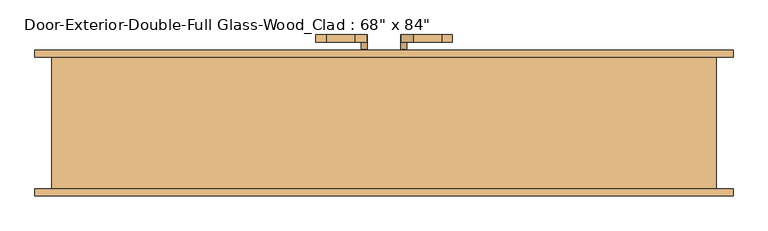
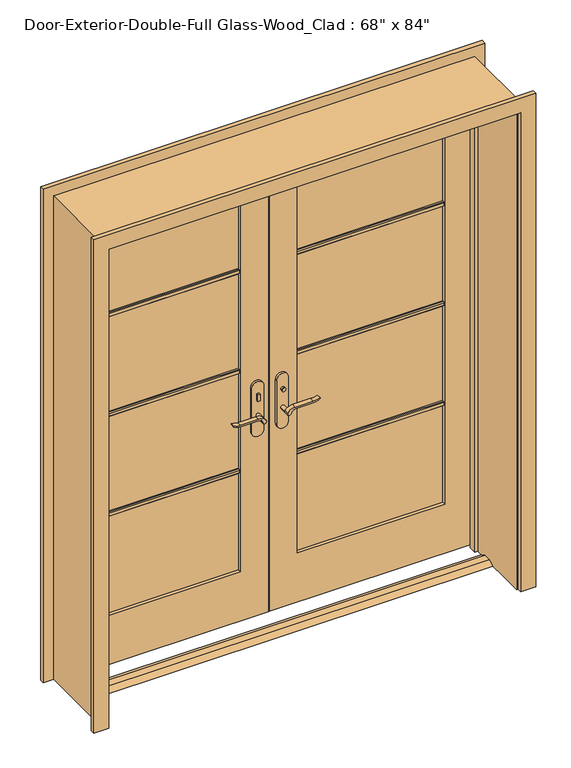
"""IFC4 building model written with IfcOpenShell, lengths in millimetres: door geometry."""

from ifc_helpers import new_model, si_unit, point, frame, frame_2d, origin, place, context, project, spatial, polyline, circle_curve, trimmed, segment, composite_curve, outline, extrude, faceted_brep, source, transform, mapped, element, save


def door_f2de18c9(model_context):
    return source(origin(), model_context, "Body", "SolidModel", [
        extrude(outline(polyline([(19.05, 12.7), (53.975, 12.7), (79.375, 0.0), (-6.35, 0.0), (19.05, 12.7)])), frame((-863.6, 0.0, 0.0), z_axis=(1.0, 0.0, 0.0), x_axis=(0.0, 1.0, 0.0)), (0.0, 0.0, 1.0), 1727.2),
        extrude(outline(polyline([(-47.4019111, 118.1125), (-57.4019111, 118.1125), (-57.4019111, 128.1125), (-47.4019111, 128.1125), (-47.4019111, 118.1125)])), frame((0.0, 0.0, 981.9), z_axis=(0.0, 0.0, 1.0), x_axis=(1.0, 0.0, 0.0)), (0.0, 0.0, 1.0), 30.0),
        extrude(outline(composite_curve([segment(trimmed(circle_curve(frame_2d((996.9, -52.4019111)), 8.0), [point((996.9, -60.4019111))], [point((996.9, -44.4019111))], False, "CARTESIAN"), True, "CONTINUOUS"), segment(trimmed(circle_curve(frame_2d((996.9, -52.4019111)), 8.0), [point((996.9, -44.4019111))], [point((996.9, -60.4019111))], False, "CARTESIAN"), True, "CONTINUOUS")], self_intersect=False)), frame((0.0, 183.0375, 0.0), z_axis=(0.0, 1.0, 0.0), x_axis=(0.0, 0.0, 1.0)), (0.0, 0.0, 1.0), 10.0),
        extrude(outline(composite_curve([segment(trimmed(circle_curve(frame_2d((897.1555521, -76.0694241)), 37.2832219), [point((919.0523287, -45.8937749))], [point((934.4, -77.7693445))], False, "CARTESIAN"), True, "CONTINUOUS"), segment(polyline([(934.4, -77.7693445), (934.4, -154.045502)]), True, "CONTINUOUS"), segment(trimmed(circle_curve(frame_2d((1017.6850638, -153.9791202)), 83.2850902), [point((934.4, -154.045502))], [point((939.4, -182.4019111))], True, "CARTESIAN"), True, "CONTINUOUS"), segment(polyline([(939.4, -182.4019111), (936.6135558, -182.4019111)]), True, "CONTINUOUS"), segment(trimmed(circle_curve(frame_2d((986.6709207, -150.4622499)), 59.3791355), [point((936.6135558, -182.4019111))], [point((927.4, -154.045502))], False, "CARTESIAN"), True, "CONTINUOUS"), segment(polyline([(927.4, -154.045502), (927.4, -77.7881013)]), True, "CONTINUOUS"), segment(trimmed(circle_curve(frame_2d((909.2738613, -77.7881013)), 18.1261387), [point((927.4, -77.7881013))], [point((914.4, -60.4019111))], True, "CARTESIAN"), True, "CONTINUOUS"), segment(trimmed(circle_curve(frame_2d((914.4, -52.4019111)), 8.0), [point((914.4, -60.4019111))], [point((919.0523287, -45.8937749))], False, "CARTESIAN"), True, "CONTINUOUS")], self_intersect=False)), frame((0.0, 78.1125, 0.0), z_axis=(0.0, 1.0, 0.0), x_axis=(0.0, 0.0, 1.0)), (0.0, 0.0, 1.0), 20.0),
        extrude(outline(composite_curve([segment(trimmed(circle_curve(frame_2d((914.4, -52.4019111)), 8.0), [point((914.3999903, -60.4019111))], [point((919.0523287, -45.8937749))], False, "CARTESIAN"), True, "CONTINUOUS"), segment(trimmed(circle_curve(frame_2d((897.1555521, -76.0694241)), 37.2832219), [point((919.0523287, -45.8937749))], [point((934.4, -77.7693445))], False, "CARTESIAN"), True, "CONTINUOUS"), segment(polyline([(934.4, -77.7693445), (934.4, -154.045502)]), True, "CONTINUOUS"), segment(trimmed(circle_curve(frame_2d((1017.6850638, -153.9791202)), 83.2850902), [point((934.4, -154.045502))], [point((939.4, -182.4019111))], True, "CARTESIAN"), True, "CONTINUOUS"), segment(polyline([(939.4, -182.4019111), (936.6135558, -182.4019111)]), True, "CONTINUOUS"), segment(trimmed(circle_curve(frame_2d((986.6709207, -150.4622499)), 59.3791355), [point((936.6135558, -182.4019111))], [point((927.4, -154.045502))], False, "CARTESIAN"), True, "CONTINUOUS"), segment(polyline([(927.4, -154.045502), (927.4, -77.788099)]), True, "CONTINUOUS"), segment(trimmed(circle_curve(frame_2d((909.2738682, -77.788099)), 18.1261318), [point((927.4, -77.788099))], [point((914.3999903, -60.4019111))], True, "CARTESIAN"), True, "CONTINUOUS")], self_intersect=False)), frame((0.0, 213.0375, 0.0), z_axis=(0.0, 1.0, 0.0), x_axis=(0.0, 0.0, 1.0)), (0.0, 0.0, 1.0), 20.0),
        extrude(outline(composite_curve([segment(trimmed(circle_curve(frame_2d((914.4, -52.4019111)), 8.0), [point((914.4, -60.4019111))], [point((914.4, -44.4019111))], False, "CARTESIAN"), True, "CONTINUOUS"), segment(trimmed(circle_curve(frame_2d((914.4, -52.4019111)), 8.0), [point((914.4, -44.4019111))], [point((914.4, -60.4019111))], False, "CARTESIAN"), True, "CONTINUOUS")], self_intersect=False)), frame((0.0, 98.1125, 0.0), z_axis=(0.0, 1.0, 0.0), x_axis=(0.0, 0.0, 1.0)), (0.0, 0.0, 1.0), 30.0),
        extrude(outline(composite_curve([segment(trimmed(circle_curve(frame_2d((914.4, -52.4019111)), 8.0), [point((914.4, -60.4019111))], [point((914.4, -44.4019111))], False, "CARTESIAN"), True, "CONTINUOUS"), segment(trimmed(circle_curve(frame_2d((914.4, -52.4019111)), 8.0), [point((914.4, -44.4019111))], [point((914.4, -60.4019111))], False, "CARTESIAN"), True, "CONTINUOUS")], self_intersect=False)), frame((0.0, 183.0375, 0.0), z_axis=(0.0, 1.0, 0.0), x_axis=(0.0, 0.0, 1.0)), (0.0, 0.0, 1.0), 30.0),
        extrude(outline(composite_curve([segment(polyline([(844.4, -27.4019111), (1039.4, -27.4019111)]), True, "CONTINUOUS"), segment(trimmed(circle_curve(frame_2d((1039.4, -52.4019111)), 25.0), [point((1039.4, -27.4019111))], [point((1039.4, -77.4019111))], False, "CARTESIAN"), True, "CONTINUOUS"), segment(polyline([(1039.4, -77.4019111), (844.4, -77.4019111)]), True, "CONTINUOUS"), segment(trimmed(circle_curve(frame_2d((844.4, -52.4019111)), 25.0), [point((844.4, -77.4019111))], [point((844.4, -27.4019111))], False, "CARTESIAN"), True, "CONTINUOUS")], self_intersect=False)), frame((0.0, 128.1125, 0.0), z_axis=(0.0, 1.0, 0.0), x_axis=(0.0, 0.0, 1.0)), (0.0, 0.0, 1.0), 10.0),
        extrude(outline(composite_curve([segment(polyline([(844.4, -27.4019111), (1039.4, -27.4019111)]), True, "CONTINUOUS"), segment(trimmed(circle_curve(frame_2d((1039.4, -52.4019111)), 25.0), [point((1039.4, -27.4019111))], [point((1039.4, -77.4019111))], False, "CARTESIAN"), True, "CONTINUOUS"), segment(polyline([(1039.4, -77.4019111), (844.4, -77.4019111)]), True, "CONTINUOUS"), segment(trimmed(circle_curve(frame_2d((844.4, -52.4019111)), 25.0), [point((844.4, -77.4019111))], [point((844.4, -27.4019111))], False, "CARTESIAN"), True, "CONTINUOUS")], self_intersect=False)), frame((0.0, 173.0375, 0.0), z_axis=(0.0, 1.0, 0.0), x_axis=(0.0, 0.0, 1.0)), (0.0, 0.0, 1.0), 10.0),
        extrude(outline(polyline([(47.3875, 193.0375), (57.3875, 193.0375), (57.3875, 183.0375), (47.3875, 183.0375), (47.3875, 193.0375)])), frame((0.0, 0.0, 981.9), z_axis=(0.0, 0.0, 1.0), x_axis=(1.0, 0.0, 0.0)), (0.0, 0.0, 1.0), 30.0),
        extrude(outline(composite_curve([segment(trimmed(circle_curve(frame_2d((996.9, 52.3875)), 8.0), [point((996.9, 60.3875))], [point((996.9, 44.3875))], False, "CARTESIAN"), True, "CONTINUOUS"), segment(trimmed(circle_curve(frame_2d((996.9, 52.3875)), 8.0), [point((996.9, 44.3875))], [point((996.9, 60.3875))], False, "CARTESIAN"), True, "CONTINUOUS")], self_intersect=False)), frame((0.0, 118.1125, 0.0), z_axis=(0.0, 1.0, 0.0), x_axis=(0.0, 0.0, 1.0)), (0.0, 0.0, 1.0), 10.0),
        extrude(outline(composite_curve([segment(trimmed(circle_curve(frame_2d((914.4, 52.3875)), 8.0), [point((919.0523287, 45.8793637))], [point((914.4, 60.3875))], False, "CARTESIAN"), True, "CONTINUOUS"), segment(trimmed(circle_curve(frame_2d((909.2738613, 77.7736901)), 18.1261387), [point((914.4, 60.3875))], [point((927.4, 77.7736901))], True, "CARTESIAN"), True, "CONTINUOUS"), segment(polyline([(927.4, 77.7736901), (927.4, 154.0310909)]), True, "CONTINUOUS"), segment(trimmed(circle_curve(frame_2d((986.6709207, 150.4478388)), 59.3791355), [point((927.4, 154.0310909))], [point((936.6135558, 182.3875))], False, "CARTESIAN"), True, "CONTINUOUS"), segment(polyline([(936.6135558, 182.3875), (939.4, 182.3875)]), True, "CONTINUOUS"), segment(trimmed(circle_curve(frame_2d((1017.6850638, 153.9647091)), 83.2850902), [point((939.4, 182.3875))], [point((934.4, 154.0310909))], True, "CARTESIAN"), True, "CONTINUOUS"), segment(polyline([(934.4, 154.0310909), (934.4, 77.7549333)]), True, "CONTINUOUS"), segment(trimmed(circle_curve(frame_2d((897.1555521, 76.0550129)), 37.2832219), [point((934.4, 77.7549333))], [point((919.0523287, 45.8793637))], False, "CARTESIAN"), True, "CONTINUOUS")], self_intersect=False)), frame((0.0, 213.0375, 0.0), z_axis=(0.0, 1.0, 0.0), x_axis=(0.0, 0.0, 1.0)), (0.0, 0.0, 1.0), 20.0),
        extrude(outline(composite_curve([segment(trimmed(circle_curve(frame_2d((909.2738682, 77.7736878)), 18.1261318), [point((914.3999903, 60.3875))], [point((927.4, 77.7736878))], True, "CARTESIAN"), True, "CONTINUOUS"), segment(polyline([(927.4, 77.7736878), (927.4, 154.0310909)]), True, "CONTINUOUS"), segment(trimmed(circle_curve(frame_2d((986.6709207, 150.4478388)), 59.3791355), [point((927.4, 154.0310909))], [point((936.6135558, 182.3875))], False, "CARTESIAN"), True, "CONTINUOUS"), segment(polyline([(936.6135558, 182.3875), (939.4, 182.3875)]), True, "CONTINUOUS"), segment(trimmed(circle_curve(frame_2d((1017.6850638, 153.9647091)), 83.2850902), [point((939.4, 182.3875))], [point((934.4, 154.0310909))], True, "CARTESIAN"), True, "CONTINUOUS"), segment(polyline([(934.4, 154.0310909), (934.4, 77.7549333)]), True, "CONTINUOUS"), segment(trimmed(circle_curve(frame_2d((897.1555521, 76.0550129)), 37.2832219), [point((934.4, 77.7549333))], [point((919.0523287, 45.8793637))], False, "CARTESIAN"), True, "CONTINUOUS"), segment(trimmed(circle_curve(frame_2d((914.4, 52.3875)), 8.0), [point((919.0523287, 45.8793637))], [point((914.3999903, 60.3875))], False, "CARTESIAN"), True, "CONTINUOUS")], self_intersect=False)), frame((0.0, 78.1125, 0.0), z_axis=(0.0, 1.0, 0.0), x_axis=(0.0, 0.0, 1.0)), (0.0, 0.0, 1.0), 20.0),
        extrude(outline(composite_curve([segment(trimmed(circle_curve(frame_2d((914.4, 52.3875)), 8.0), [point((914.4, 60.3875))], [point((914.4, 44.3875))], False, "CARTESIAN"), True, "CONTINUOUS"), segment(trimmed(circle_curve(frame_2d((914.4, 52.3875)), 8.0), [point((914.4, 44.3875))], [point((914.4, 60.3875))], False, "CARTESIAN"), True, "CONTINUOUS")], self_intersect=False)), frame((0.0, 183.0375, 0.0), z_axis=(0.0, 1.0, 0.0), x_axis=(0.0, 0.0, 1.0)), (0.0, 0.0, 1.0), 30.0),
        extrude(outline(composite_curve([segment(trimmed(circle_curve(frame_2d((914.4, 52.3875)), 8.0), [point((914.4, 60.3875))], [point((914.4, 44.3875))], False, "CARTESIAN"), True, "CONTINUOUS"), segment(trimmed(circle_curve(frame_2d((914.4, 52.3875)), 8.0), [point((914.4, 44.3875))], [point((914.4, 60.3875))], False, "CARTESIAN"), True, "CONTINUOUS")], self_intersect=False)), frame((0.0, 98.1125, 0.0), z_axis=(0.0, 1.0, 0.0), x_axis=(0.0, 0.0, 1.0)), (0.0, 0.0, 1.0), 30.0),
        extrude(outline(composite_curve([segment(trimmed(circle_curve(frame_2d((844.4, 52.3875)), 25.0), [point((844.4, 27.3875))], [point((844.4, 77.3875))], False, "CARTESIAN"), True, "CONTINUOUS"), segment(polyline([(844.4, 77.3875), (1039.4, 77.3875)]), True, "CONTINUOUS"), segment(trimmed(circle_curve(frame_2d((1039.4, 52.3875)), 25.0), [point((1039.4, 77.3875))], [point((1039.4, 27.3875))], False, "CARTESIAN"), True, "CONTINUOUS"), segment(polyline([(1039.4, 27.3875), (844.4, 27.3875)]), True, "CONTINUOUS")], self_intersect=False)), frame((0.0, 173.0375, 0.0), z_axis=(0.0, 1.0, 0.0), x_axis=(0.0, 0.0, 1.0)), (0.0, 0.0, 1.0), 10.0),
        extrude(outline(composite_curve([segment(trimmed(circle_curve(frame_2d((844.4, 52.3875)), 25.0), [point((844.4, 27.3875))], [point((844.4, 77.3875))], False, "CARTESIAN"), True, "CONTINUOUS"), segment(polyline([(844.4, 77.3875), (1039.4, 77.3875)]), True, "CONTINUOUS"), segment(trimmed(circle_curve(frame_2d((1039.4, 52.3875)), 25.0), [point((1039.4, 77.3875))], [point((1039.4, 27.3875))], False, "CARTESIAN"), True, "CONTINUOUS"), segment(polyline([(1039.4, 27.3875), (844.4, 27.3875)]), True, "CONTINUOUS")], self_intersect=False)), frame((0.0, 128.1125, 0.0), z_axis=(0.0, 1.0, 0.0), x_axis=(0.0, 0.0, 1.0)), (0.0, 0.0, 1.0), 10.0),
        extrude(outline(polyline([(152.0825, 1578.371875), (152.0825, 1559.321875), (145.7325, 1559.321875), (142.5575, 1562.496875), (142.5575, 1575.196875), (145.7325, 1578.371875), (152.0825, 1578.371875)])), frame((120.65, 0.0, 0.0), z_axis=(1.0, 0.0, 0.0), x_axis=(0.0, 1.0, 0.0)), (0.0, 0.0, 1.0), 622.3),
        extrude(outline(polyline([(152.0825, 1132.68125), (152.0825, 1113.63125), (145.7325, 1113.63125), (142.5575, 1116.80625), (142.5575, 1129.50625), (145.7325, 1132.68125), (152.0825, 1132.68125)])), frame((120.65, 0.0, 0.0), z_axis=(1.0, 0.0, 0.0), x_axis=(0.0, 1.0, 0.0)), (0.0, 0.0, 1.0), 622.3),
        extrude(outline(polyline([(152.0825, 686.990625), (152.0825, 667.940625), (145.7325, 667.940625), (142.5575, 671.115625), (142.5575, 683.815625), (145.7325, 686.990625), (152.0825, 686.990625)])), frame((120.65, 0.0, 0.0), z_axis=(1.0, 0.0, 0.0), x_axis=(0.0, 1.0, 0.0)), (0.0, 0.0, 1.0), 622.3),
        extrude(outline(polyline([(159.0675, 1578.371875), (165.4175, 1578.371875), (168.5925, 1575.196875), (168.5925, 1562.496875), (165.4175, 1559.321875), (159.0675, 1559.321875), (159.0675, 1578.371875)])), frame((-742.95, 0.0, 0.0), z_axis=(1.0, 0.0, 0.0), x_axis=(0.0, 1.0, 0.0)), (0.0, 0.0, 1.0), 622.3),
        extrude(outline(polyline([(159.0675, 1132.68125), (165.4175, 1132.68125), (168.5925, 1129.50625), (168.5925, 1116.80625), (165.4175, 1113.63125), (159.0675, 1113.63125), (159.0675, 1132.68125)])), frame((-742.95, 0.0, 0.0), z_axis=(1.0, 0.0, 0.0), x_axis=(0.0, 1.0, 0.0)), (0.0, 0.0, 1.0), 622.3),
        extrude(outline(polyline([(159.0675, 686.990625), (165.4175, 686.990625), (168.5925, 683.815625), (168.5925, 671.115625), (165.4175, 667.940625), (159.0675, 667.940625), (159.0675, 686.990625)])), frame((-742.95, 0.0, 0.0), z_axis=(1.0, 0.0, 0.0), x_axis=(0.0, 1.0, 0.0)), (0.0, 0.0, 1.0), 622.3),
        extrude(outline(polyline([(159.0675, 1578.371875), (165.4175, 1578.371875), (168.5925, 1575.196875), (168.5925, 1562.496875), (165.4175, 1559.321875), (159.0675, 1559.321875), (159.0675, 1578.371875)])), frame((120.65, 0.0, 0.0), z_axis=(1.0, 0.0, 0.0), x_axis=(0.0, 1.0, 0.0)), (0.0, 0.0, 1.0), 622.3),
        extrude(outline(polyline([(159.0675, 1132.68125), (165.4175, 1132.68125), (168.5925, 1129.50625), (168.5925, 1116.80625), (165.4175, 1113.63125), (159.0675, 1113.63125), (159.0675, 1132.68125)])), frame((120.65, 0.0, 0.0), z_axis=(1.0, 0.0, 0.0), x_axis=(0.0, 1.0, 0.0)), (0.0, 0.0, 1.0), 622.3),
        extrude(outline(polyline([(159.0675, 686.990625), (165.4175, 686.990625), (168.5925, 683.815625), (168.5925, 671.115625), (165.4175, 667.940625), (159.0675, 667.940625), (159.0675, 686.990625)])), frame((120.65, 0.0, 0.0), z_axis=(1.0, 0.0, 0.0), x_axis=(0.0, 1.0, 0.0)), (0.0, 0.0, 1.0), 622.3),
        extrude(outline(polyline([(152.0825, 1578.371875), (152.0825, 1559.321875), (145.7325, 1559.321875), (142.5575, 1562.496875), (142.5575, 1575.196875), (145.7325, 1578.371875), (152.0825, 1578.371875)])), frame((-742.95, 0.0, 0.0), z_axis=(1.0, 0.0, 0.0), x_axis=(0.0, 1.0, 0.0)), (0.0, 0.0, 1.0), 622.3),
        extrude(outline(polyline([(152.0825, 1132.68125), (152.0825, 1113.63125), (145.7325, 1113.63125), (142.5575, 1116.80625), (142.5575, 1129.50625), (145.7325, 1132.68125), (152.0825, 1132.68125)])), frame((-742.95, 0.0, 0.0), z_axis=(1.0, 0.0, 0.0), x_axis=(0.0, 1.0, 0.0)), (0.0, 0.0, 1.0), 622.3),
        extrude(outline(polyline([(152.0825, 686.990625), (152.0825, 667.940625), (145.7325, 667.940625), (142.5575, 671.115625), (142.5575, 683.815625), (145.7325, 686.990625), (152.0825, 686.990625)])), frame((-742.95, 0.0, 0.0), z_axis=(1.0, 0.0, 0.0), x_axis=(0.0, 1.0, 0.0)), (0.0, 0.0, 1.0), 622.3),
        extrude(outline(polyline([(0.0, 869.95), (0.0, 933.45), (2203.45, 933.45), (2203.45, -933.45), (0.0, -933.45), (0.0, -869.95), (2139.95, -869.95), (2139.95, 869.95), (0.0, 869.95)])), frame((0.0, 173.0375, 0.0), z_axis=(0.0, 1.0, 0.0), x_axis=(0.0, 0.0, 1.0)), (0.0, 0.0, 1.0), 19.05),
        extrude(outline(polyline([(0.0, 869.95), (0.0, 933.45), (2203.45, 933.45), (2203.45, -933.45), (0.0, -933.45), (0.0, -869.95), (2139.95, -869.95), (2139.95, 869.95), (0.0, 869.95)])), frame((0.0, -198.4375, 0.0), z_axis=(0.0, 1.0, 0.0), x_axis=(0.0, 0.0, 1.0)), (0.0, 0.0, 1.0), 19.05),
        extrude(outline(polyline([(12.7, 863.6), (2133.6, 863.6), (2133.6, 1.5875), (12.7, 1.5875), (12.7, 863.6)]), holes=[polyline([(2014.5375, 120.65), (2014.5375, 742.95), (231.775, 742.95), (231.775, 120.65), (2014.5375, 120.65)])]), frame((0.0, 138.1125, 0.0), z_axis=(0.0, 1.0, 0.0), x_axis=(0.0, 0.0, 1.0)), (0.0, 0.0, 1.0), 34.925),
        extrude(outline(polyline([(2133.6, -863.6), (12.7, -863.6), (12.7, -1.6019111), (2133.6, -1.6019111), (2133.6, -863.6)]), holes=[polyline([(231.775, -742.95), (2014.5375, -742.95), (2014.5375, -120.65), (231.775, -120.65), (231.775, -742.95)])]), frame((0.0, 138.1125, 0.0), z_axis=(0.0, 1.0, 0.0), x_axis=(0.0, 0.0, 1.0)), (0.0, 0.0, 1.0), 34.925),
        faceted_brep([(889.0, 173.0375, 0.0), (889.0, -179.3875, 0.0), (863.6, -179.3875, 0.0), (863.6, 103.1875, 0.0), (850.9, 103.1875, 0.0), (850.9, 138.1125, 0.0), (863.6, 138.1125, 0.0), (863.6, 173.0375, 0.0), (889.0, 173.0375, 2159.0), (889.0, -179.3875, 2159.0), (-889.0, -179.3875, 2159.0), (-889.0, -179.3875, 0.0), (-863.6, -179.3875, 0.0), (-863.6, -179.3875, 2133.6), (863.6, -179.3875, 2133.6), (863.6, 103.1875, 2133.6), (-863.6, 103.1875, 2133.6), (-863.6, 103.1875, 0.0), (-850.9, 103.1875, 0.0), (-850.9, 103.1875, 2120.9), (850.9, 103.1875, 2120.9), (850.9, 138.1125, 2120.9), (1.5875, 138.1125, 2120.9), (-1.6019111, 138.1125, 2120.9), (-850.9, 138.1125, 2120.9), (-850.9, 138.1125, 0.0), (-863.6, 138.1125, 0.0), (-863.6, 138.1125, 2133.6), (-1.6019111, 138.1125, 2133.6), (1.5875, 138.1125, 2133.6), (863.6, 138.1125, 2133.6), (863.6, 173.0375, 2133.6), (1.5875, 173.0375, 2133.6), (-1.6019111, 173.0375, 2133.6), (-863.6, 173.0375, 2133.6), (-863.6, 173.0375, 0.0), (-889.0, 173.0375, 0.0), (-889.0, 173.0375, 2159.0)], [[[0, 1, 2, 3, 4, 5, 6, 7]], [[1, 0, 8, 9]], [[2, 1, 9, 10, 11, 12, 13, 14]], [[3, 2, 14, 15]], [[4, 3, 15, 16, 17, 18, 19, 20]], [[5, 4, 20, 21]], [[6, 5, 21, 22, 23, 24, 25, 26, 27, 28, 29, 30]], [[7, 6, 30, 31]], [[0, 7, 31, 32, 33, 34, 35, 36, 37, 8]], [[9, 8, 37, 10]], [[14, 13, 16, 15]], [[20, 19, 24, 23, 22, 21]], [[31, 30, 29, 28, 27, 34, 33, 32]], [[12, 11, 36, 35, 26, 25, 18, 17]], [[11, 10, 37, 36]], [[13, 12, 17, 16]], [[19, 18, 25, 24]], [[27, 26, 35, 34]]]),
        extrude(outline(polyline([(742.95, 152.0825), (120.65, 152.0825), (120.65, 159.0675), (742.95, 159.0675), (742.95, 152.0825)])), frame((0.0, 0.0, 231.775), z_axis=(0.0, 0.0, 1.0), x_axis=(1.0, 0.0, 0.0)), (0.0, 0.0, 1.0), 1782.7625),
        extrude(outline(polyline([(-120.65, 152.0825), (-742.95, 152.0825), (-742.95, 159.0675), (-120.65, 159.0675), (-120.65, 152.0825)])), frame((0.0, 0.0, 231.775), z_axis=(0.0, 0.0, 1.0), x_axis=(1.0, 0.0, 0.0)), (0.0, 0.0, 1.0), 1782.7625),
    ])


if __name__ == "__main__":
    model = new_model("IFC4")
    model_context = context("Model", 3, world=origin())
    ifc_project = project(units=[si_unit("LENGTHUNIT", "METRE", prefix="MILLI")], contexts=[model_context])
    site = spatial("IfcSite", under=ifc_project)
    building = spatial("IfcBuilding", under=site)
    placement = place(None, origin())
    door_shape = door_f2de18c9(model_context)
    element("IfcDoor", 1, ObjectType="Door-Exterior-Double-Full Glass-Wood_Clad : 68\" x 84\"", at=placement, inside=building, context=model_context, shape_type="MappedRepresentation", body=[
        mapped(door_shape, transform((0.0, 0.0, 0.0), x_axis=(1.0, 0.0, 0.0), y_axis=(0.0, 1.0, 0.0), z_axis=(0.0, 0.0, 1.0))),
    ])
    save(model, "model.ifc")
